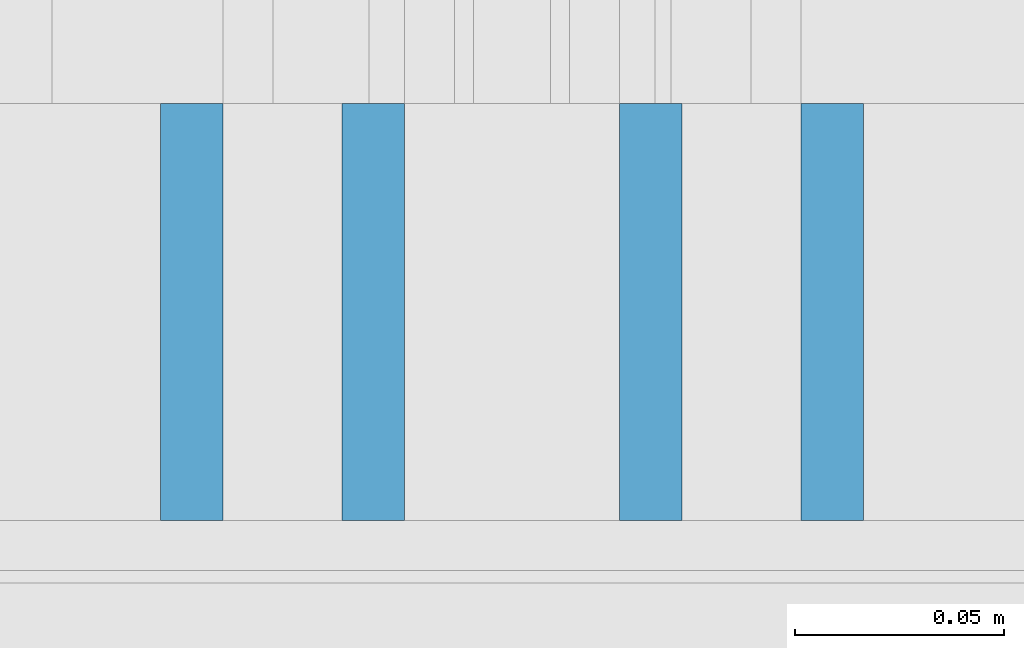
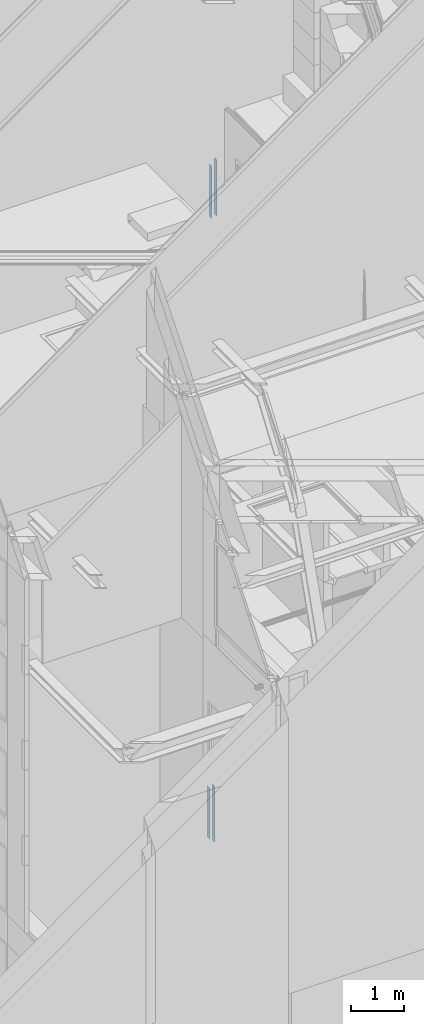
# One storey, part 75 of 583: 4 building element parts, 2 elements without a shape of their own.
"""IFC2X3 building model written with IfcOpenShell, lengths in metres."""

from ifc_helpers import new_model, entity, si_unit, converted_unit, derived_unit, money_unit, direction, frame, origin_with_axes, place, context, subcontext, project, spatial, polyline, outline, extrude, material, type_object, element, aggregate, save


model = new_model("IFC2X3")

# Units and contexts
model_context = context("Model", 3, precision=1e-05, world=origin_with_axes(), true_north=direction((0.0, 1.0)))
body_context = subcontext(model_context, "Body", "Model", "MODEL_VIEW", scale=1.0)
ifc_project = project(units=[si_unit("LENGTHUNIT", "METRE"), si_unit("AREAUNIT", "SQUARE_METRE"), si_unit("VOLUMEUNIT", "CUBIC_METRE"), si_unit("ABSORBEDDOSEUNIT", "GRAY"), si_unit("AMOUNTOFSUBSTANCEUNIT", "MOLE"), si_unit("DOSEEQUIVALENTUNIT", "SIEVERT"), si_unit("ELECTRICCAPACITANCEUNIT", "FARAD"), si_unit("ELECTRICCHARGEUNIT", "COULOMB"), si_unit("ELECTRICCONDUCTANCEUNIT", "SIEMENS"), si_unit("ELECTRICCURRENTUNIT", "AMPERE"), si_unit("ELECTRICRESISTANCEUNIT", "OHM"), si_unit("ELECTRICVOLTAGEUNIT", "VOLT"), si_unit("ENERGYUNIT", "JOULE"), si_unit("FORCEUNIT", "NEWTON"), si_unit("FREQUENCYUNIT", "HERTZ"), si_unit("ILLUMINANCEUNIT", "LUX"), si_unit("INDUCTANCEUNIT", "HENRY"), si_unit("LUMINOUSFLUXUNIT", "LUMEN"), si_unit("LUMINOUSINTENSITYUNIT", "CANDELA"), si_unit("MAGNETICFLUXDENSITYUNIT", "TESLA"), si_unit("MAGNETICFLUXUNIT", "WEBER"), si_unit("MASSUNIT", "GRAM"), converted_unit("PLANEANGLEUNIT", "degree", entity("IfcReal", 0.0174532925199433), si_unit("PLANEANGLEUNIT", "RADIAN"), dimensions=[0, 0, 0, 0, 0, 0, 0]), si_unit("POWERUNIT", "WATT"), si_unit("PRESSUREUNIT", "PASCAL"), si_unit("RADIOACTIVITYUNIT", "BECQUEREL"), si_unit("SOLIDANGLEUNIT", "STERADIAN"), si_unit("THERMODYNAMICTEMPERATUREUNIT", "KELVIN"), si_unit("TIMEUNIT", "SECOND"), derived_unit("ACCELERATIONUNIT", [(si_unit("LENGTHUNIT", "METRE"), 1), (si_unit("TIMEUNIT", "SECOND"), -2)]), derived_unit("ANGULARVELOCITYUNIT", [(converted_unit("PLANEANGLEUNIT", "degree", entity("IfcReal", 0.0174532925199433), si_unit("PLANEANGLEUNIT", "RADIAN"), dimensions=[0, 0, 0, 0, 0, 0, 0]), 1), (si_unit("TIMEUNIT", "SECOND"), -1)]), derived_unit("CURVATUREUNIT", [(converted_unit("PLANEANGLEUNIT", "degree", entity("IfcReal", 0.0174532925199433), si_unit("PLANEANGLEUNIT", "RADIAN"), dimensions=[0, 0, 0, 0, 0, 0, 0]), 1), (si_unit("LENGTHUNIT", "METRE"), -1)]), derived_unit("DYNAMICVISCOSITYUNIT", [(si_unit("PRESSUREUNIT", "PASCAL"), 1), (si_unit("TIMEUNIT", "SECOND"), 1)]), derived_unit("HEATFLUXDENSITYUNIT", [(si_unit("POWERUNIT", "WATT"), 1), (si_unit("LENGTHUNIT", "METRE"), -2)]), derived_unit("HEATINGVALUEUNIT", [(si_unit("ENERGYUNIT", "JOULE"), 1), (si_unit("MASSUNIT", "GRAM"), -1)]), derived_unit("INTEGERCOUNTRATEUNIT", [(si_unit("TIMEUNIT", "SECOND"), -1)]), derived_unit("IONCONCENTRATIONUNIT", [(si_unit("MASSUNIT", "GRAM"), 1), (si_unit("VOLUMEUNIT", "CUBIC_METRE"), -1)]), derived_unit("ISOTHERMALMOISTURECAPACITYUNIT", [(si_unit("VOLUMEUNIT", "CUBIC_METRE"), 1), (si_unit("MASSUNIT", "GRAM"), -1)]), derived_unit("KINEMATICVISCOSITYUNIT", [(si_unit("AREAUNIT", "SQUARE_METRE"), 1), (si_unit("TIMEUNIT", "SECOND"), -1)]), derived_unit("LINEARFORCEUNIT", [(si_unit("FORCEUNIT", "NEWTON"), 1), (si_unit("LENGTHUNIT", "METRE"), -1)]), derived_unit("LINEARMOMENTUNIT", [(si_unit("FORCEUNIT", "NEWTON"), 1), (si_unit("LENGTHUNIT", "METRE"), -1)]), derived_unit("LINEARSTIFFNESSUNIT", [(si_unit("FORCEUNIT", "NEWTON"), 1), (si_unit("LENGTHUNIT", "METRE"), -1)]), derived_unit("LINEARVELOCITYUNIT", [(si_unit("LENGTHUNIT", "METRE"), 1), (si_unit("TIMEUNIT", "SECOND"), -1)]), derived_unit("LUMINOUSINTENSITYDISTRIBUTIONUNIT", [(si_unit("LUMINOUSINTENSITYUNIT", "CANDELA"), 1), (si_unit("LUMINOUSFLUXUNIT", "LUMEN"), -1)]), derived_unit("MASSDENSITYUNIT", [(si_unit("MASSUNIT", "GRAM"), 1), (si_unit("VOLUMEUNIT", "CUBIC_METRE"), -1)]), derived_unit("MASSFLOWRATEUNIT", [(si_unit("MASSUNIT", "GRAM"), 1), (si_unit("TIMEUNIT", "SECOND"), -1)]), derived_unit("MASSPERLENGTHUNIT", [(si_unit("MASSUNIT", "GRAM"), 1), (si_unit("LENGTHUNIT", "METRE"), -1)]), derived_unit("MODULUSOFELASTICITYUNIT", [(si_unit("FORCEUNIT", "NEWTON"), 1), (si_unit("AREAUNIT", "SQUARE_METRE"), -1)]), derived_unit("MODULUSOFLINEARSUBGRADEREACTIONUNIT", [(si_unit("FORCEUNIT", "NEWTON"), 1), (si_unit("LENGTHUNIT", "METRE"), -2)]), derived_unit("MODULUSOFROTATIONALSUBGRADEREACTIONUNIT", [(si_unit("FORCEUNIT", "NEWTON"), 1), (si_unit("LENGTHUNIT", "METRE"), 1)]), derived_unit("MODULUSOFSUBGRADEREACTIONUNIT", [(si_unit("FORCEUNIT", "NEWTON"), 1), (si_unit("VOLUMEUNIT", "CUBIC_METRE"), -1)]), derived_unit("MOISTUREDIFFUSIVITYUNIT", [(si_unit("VOLUMEUNIT", "CUBIC_METRE"), 1), (si_unit("TIMEUNIT", "SECOND"), -1)]), derived_unit("MOLECULARWEIGHTUNIT", [(si_unit("MASSUNIT", "GRAM"), 1), (si_unit("AMOUNTOFSUBSTANCEUNIT", "MOLE"), -1)]), derived_unit("PLANARFORCEUNIT", [(si_unit("FORCEUNIT", "NEWTON"), 1), (si_unit("LENGTHUNIT", "METRE"), -2)]), derived_unit("ROTATIONALFREQUENCYUNIT", [(si_unit("TIMEUNIT", "SECOND"), -1)]), derived_unit("ROTATIONALMASSUNIT", [(si_unit("MASSUNIT", "GRAM"), 1), (si_unit("LENGTHUNIT", "METRE"), 2)]), derived_unit("ROTATIONALSTIFFNESSUNIT", [(si_unit("FORCEUNIT", "NEWTON"), 1), (si_unit("LENGTHUNIT", "METRE"), 1), (converted_unit("PLANEANGLEUNIT", "degree", entity("IfcReal", 0.0174532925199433), si_unit("PLANEANGLEUNIT", "RADIAN"), dimensions=[0, 0, 0, 0, 0, 0, 0]), -1)]), derived_unit("SECTIONAREAINTEGRALUNIT", [(si_unit("LENGTHUNIT", "METRE"), 5)]), derived_unit("SECTIONMODULUSUNIT", [(si_unit("LENGTHUNIT", "METRE"), 3)]), derived_unit("SHEARMODULUSUNIT", [(si_unit("FORCEUNIT", "NEWTON"), 1), (si_unit("AREAUNIT", "SQUARE_METRE"), -1)]), derived_unit("SOUNDPOWERUNIT", [(si_unit("ENERGYUNIT", "JOULE"), 1), (si_unit("TIMEUNIT", "SECOND"), -1)]), derived_unit("SPECIFICHEATCAPACITYUNIT", [(si_unit("FORCEUNIT", "NEWTON"), 1), (si_unit("MASSUNIT", "GRAM"), -1), (si_unit("THERMODYNAMICTEMPERATUREUNIT", "KELVIN"), -1)]), derived_unit("TEMPERATUREGRADIENTUNIT", [(si_unit("THERMODYNAMICTEMPERATUREUNIT", "KELVIN"), 1), (si_unit("LENGTHUNIT", "METRE"), -1)]), derived_unit("THERMALADMITTANCEUNIT", [(si_unit("POWERUNIT", "WATT"), 1), (si_unit("AREAUNIT", "SQUARE_METRE"), -1), (si_unit("THERMODYNAMICTEMPERATUREUNIT", "KELVIN"), -1)]), derived_unit("THERMALCONDUCTANCEUNIT", [(si_unit("POWERUNIT", "WATT"), 1), (si_unit("LENGTHUNIT", "METRE"), -1), (si_unit("THERMODYNAMICTEMPERATUREUNIT", "KELVIN"), -1)]), derived_unit("THERMALEXPANSIONCOEFFICIENTUNIT", [(si_unit("THERMODYNAMICTEMPERATUREUNIT", "KELVIN"), -1)]), derived_unit("THERMALRESISTANCEUNIT", [(si_unit("AREAUNIT", "SQUARE_METRE"), 1), (si_unit("POWERUNIT", "WATT"), -1)]), derived_unit("THERMALTRANSMITTANCEUNIT", [(si_unit("POWERUNIT", "WATT"), 1), (si_unit("AREAUNIT", "SQUARE_METRE"), -1), (si_unit("THERMODYNAMICTEMPERATUREUNIT", "KELVIN"), -1)]), derived_unit("TORQUEUNIT", [(si_unit("FORCEUNIT", "NEWTON"), 1), (si_unit("LENGTHUNIT", "METRE"), 1)]), derived_unit("VAPORPERMEABILITYUNIT", [(si_unit("MASSUNIT", "GRAM"), 1), (si_unit("TIMEUNIT", "SECOND"), -1)]), derived_unit("VOLUMETRICFLOWRATEUNIT", [(si_unit("VOLUMEUNIT", "CUBIC_METRE"), 1), (si_unit("TIMEUNIT", "SECOND"), -1)]), derived_unit("WARPINGCONSTANTUNIT", [(si_unit("LENGTHUNIT", "METRE"), 6)]), derived_unit("WARPINGMOMENTUNIT", [(si_unit("FORCEUNIT", "NEWTON"), 1), (si_unit("LENGTHUNIT", "METRE"), 2)]), money_unit("GBP")], contexts=[model_context])

# Site, building, storey
site_placement = place(None, origin_with_axes())
site = spatial("IfcSite", under=ifc_project, at=site_placement, Name="Site", CompositionType="ELEMENT")
building_placement = place(site_placement, origin_with_axes())
building = spatial("IfcBuilding", under=site, at=building_placement, Name="Building01", CompositionType="ELEMENT")
storey_placement = place(building_placement, frame((0.0, 0.0, 20.78), z_axis=(0.0, 0.0, 1.0), x_axis=(1.0, 0.0, 0.0)))
storey = spatial("IfcBuildingStorey", under=building, at=storey_placement, Name="RL", CompositionType="ELEMENT", Elevation=20.78)

# Wall, building element parts
wall_type = type_object("IfcWallType", Name="SHE_A-Walls_Type05a_Partition_95mm_tall", PredefinedType="NOTDEFINED")
wall_1_placement = place(storey_placement, frame((7.215, 8.64, 0.602661), z_axis=(0.0, 1.0, 0.0), x_axis=(0.0, 0.0, -1.0)))
wall_1 = element("IfcWall", 1, at=wall_1_placement, inside=storey, type_object=wall_type, Name="5A", ObjectType="SHE_A-Walls_Type05a_Partition_95mm_tall")
ifc_material = material(Name="A_BSUK_Walls_Timber")
placement_1 = place(wall_1_placement, origin_with_axes())
building_element_part_1 = element("IfcBuildingElementPart", 2, at=placement_1, material=ifc_material, Name="2", context=body_context, shape_type="SweptSolid", body=[
    extrude(outline(polyline([(1.26, 0.075), (0.075, 0.075), (0.06, 0.06), (1.26, 0.06), (1.26, 0.075)])), frame((0.0, 0.0, 0.015), z_axis=(0.0, 0.0, 1.0), x_axis=(1.0, 0.0, 0.0)), (0.0, 0.0, 1.0), 0.1),
])
building_element_part_2 = element("IfcBuildingElementPart", 3, at=placement_1, material=ifc_material, Name="3", context=body_context, shape_type="SweptSolid", body=[
    extrude(outline(polyline([(1.245, -0.035), (-0.035, -0.035), (-0.05, -0.05), (1.245, -0.05), (1.245, -0.035)])), frame((0.0, 0.0, 0.015), z_axis=(0.0, 0.0, 1.0), x_axis=(1.0, 0.0, 0.0)), (0.0, 0.0, 1.0), 0.1),
])
aggregate(wall_1, [building_element_part_1, building_element_part_2])

wall_2_placement = place(storey_placement, frame((7.171475, 8.64, -14.975331), z_axis=(0.0, 1.0, 0.0), x_axis=(0.0, 0.0, 1.0)))
wall_2 = element("IfcWall", 4, at=wall_2_placement, inside=storey, type_object=wall_type, Name="5A", ObjectType="SHE_A-Walls_Type05a_Partition_95mm_tall")
placement_2 = place(wall_2_placement, origin_with_axes())
building_element_part_3 = element("IfcBuildingElementPart", 5, at=placement_2, material=ifc_material, Name="2", context=body_context, shape_type="SweptSolid", body=[
    extrude(outline(polyline([(1.245, -0.06), (0.06, -0.06), (0.075, -0.075), (1.245, -0.075), (1.245, -0.06)])), frame((0.0, 0.0, 0.015), z_axis=(0.0, 0.0, 1.0), x_axis=(1.0, 0.0, 0.0)), (0.0, 0.0, 1.0), 0.1),
])
building_element_part_4 = element("IfcBuildingElementPart", 6, at=placement_2, material=ifc_material, Name="3", context=body_context, shape_type="SweptSolid", body=[
    extrude(outline(polyline([(1.245, 0.05), (-0.05, 0.05), (-0.035, 0.035), (1.245, 0.035), (1.245, 0.05)])), frame((0.0, 0.0, 0.015), z_axis=(0.0, 0.0, 1.0), x_axis=(1.0, 0.0, 0.0)), (0.0, 0.0, 1.0), 0.1),
])
aggregate(wall_2, [building_element_part_3, building_element_part_4])

save(model, "model.ifc")
